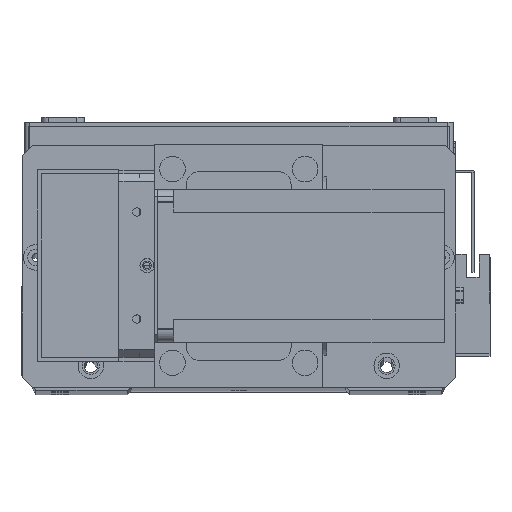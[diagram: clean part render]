
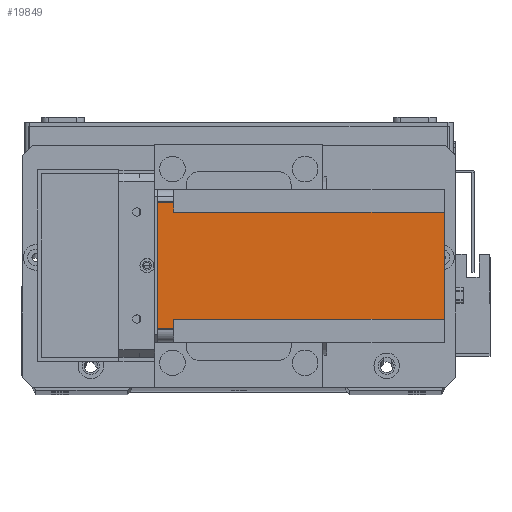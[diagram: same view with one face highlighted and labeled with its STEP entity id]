
A CAD part, top view. The second image highlights one B-rep face of the part: STEP entity #19849.
In plain terms, the highlighted planar face has unit normal (0, 0, 1) as drawn and (-1, 0, 0) by its records, which use the part's own axes.
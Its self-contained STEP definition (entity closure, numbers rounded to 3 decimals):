
#19 = VERTEX_POINT ( 'NONE', #20357 ) ;
#609 = EDGE_LOOP ( 'NONE', ( #22414, #1010, #28360, #31418, #14575, #22029, #1586, #10816 ) ) ;
#793 = LINE ( 'NONE', #22495, #19624 ) ;
#1010 = ORIENTED_EDGE ( 'NONE', *, *, #22180, .T. ) ;
#1586 = ORIENTED_EDGE ( 'NONE', *, *, #24512, .T. ) ;
#2702 = LINE ( 'NONE', #31259, #28083 ) ;
#2725 = CARTESIAN_POINT ( 'NONE',  ( 0., 5., 0. ) ) ;
#4799 = CARTESIAN_POINT ( 'NONE',  ( 0., 55., -6.5 ) ) ;
#5239 = CARTESIAN_POINT ( 'NONE',  ( 0., 0., -112.5 ) ) ;
#5432 = VECTOR ( 'NONE', #23672, 1000. ) ;
#5647 = EDGE_CURVE ( 'NONE', #27781, #5731, #16251, .T. ) ;
#5731 = VERTEX_POINT ( 'NONE', #24345 ) ;
#6171 = VECTOR ( 'NONE', #14285, 1000. ) ;
#7568 = CARTESIAN_POINT ( 'NONE',  ( 0., 55., -112.5 ) ) ;
#7687 = DIRECTION ( 'NONE',  ( -1., 0., 0. ) ) ;
#9986 = EDGE_CURVE ( 'NONE', #22677, #24707, #2702, .T. ) ;
#10065 = EDGE_CURVE ( 'NONE', #13328, #10375, #19249, .T. ) ;
#10300 = LINE ( 'NONE', #13917, #22582 ) ;
#10375 = VERTEX_POINT ( 'NONE', #13080 ) ;
#10816 = ORIENTED_EDGE ( 'NONE', *, *, #11068, .F. ) ;
#10993 = EDGE_CURVE ( 'NONE', #22677, #15619, #16168, .T. ) ;
#11068 = EDGE_CURVE ( 'NONE', #5731, #19, #793, .T. ) ;
#12519 = DIRECTION ( 'NONE',  ( 0., 0., -1. ) ) ;
#13080 = CARTESIAN_POINT ( 'NONE',  ( 0., 51., -6.5 ) ) ;
#13328 = VERTEX_POINT ( 'NONE', #20919 ) ;
#13917 = CARTESIAN_POINT ( 'NONE',  ( 0., 0., -112.5 ) ) ;
#14046 = VECTOR ( 'NONE', #29416, 1000. ) ;
#14285 = DIRECTION ( 'NONE',  ( 0., 0., 1. ) ) ;
#14575 = ORIENTED_EDGE ( 'NONE', *, *, #25887, .F. ) ;
#15486 = VECTOR ( 'NONE', #18665, 1000. ) ;
#15619 = VERTEX_POINT ( 'NONE', #4799 ) ;
#16168 = LINE ( 'NONE', #7568, #21145 ) ;
#16251 = LINE ( 'NONE', #26077, #15486 ) ;
#16410 = DIRECTION ( 'NONE',  ( 0., -1., 0. ) ) ;
#16552 = DIRECTION ( 'NONE',  ( 0., -1., 0. ) ) ;
#18284 = CARTESIAN_POINT ( 'NONE',  ( 0., 55., 0. ) ) ;
#18521 = LINE ( 'NONE', #28499, #5432 ) ;
#18665 = DIRECTION ( 'NONE',  ( 0., 1., 0. ) ) ;
#19249 = LINE ( 'NONE', #31565, #6171 ) ;
#19624 = VECTOR ( 'NONE', #29900, 1000. ) ;
#19849 = ADVANCED_FACE ( 'NONE', ( #30428 ), #19956, .T. ) ;
#19956 = PLANE ( 'NONE',  #30921 ) ;
#20357 = CARTESIAN_POINT ( 'NONE',  ( 0., 9., -112.5 ) ) ;
#20919 = CARTESIAN_POINT ( 'NONE',  ( 0., 51., -112.5 ) ) ;
#21145 = VECTOR ( 'NONE', #12519, 1000. ) ;
#22006 = CARTESIAN_POINT ( 'NONE',  ( 0., 60., -6.5 ) ) ;
#22029 = ORIENTED_EDGE ( 'NONE', *, *, #10065, .F. ) ;
#22180 = EDGE_CURVE ( 'NONE', #27781, #24707, #18521, .T. ) ;
#22414 = ORIENTED_EDGE ( 'NONE', *, *, #5647, .F. ) ;
#22495 = CARTESIAN_POINT ( 'NONE',  ( 0., 9., -112.5 ) ) ;
#22582 = VECTOR ( 'NONE', #16410, 1000. ) ;
#22677 = VERTEX_POINT ( 'NONE', #18284 ) ;
#23672 = DIRECTION ( 'NONE',  ( 0., 0., 1. ) ) ;
#24345 = CARTESIAN_POINT ( 'NONE',  ( 0., 9., -6.5 ) ) ;
#24512 = EDGE_CURVE ( 'NONE', #13328, #19, #10300, .T. ) ;
#24707 = VERTEX_POINT ( 'NONE', #2725 ) ;
#24887 = DIRECTION ( 'NONE',  ( 0., -1., 0. ) ) ;
#25887 = EDGE_CURVE ( 'NONE', #10375, #15619, #27903, .T. ) ;
#25900 = CARTESIAN_POINT ( 'NONE',  ( 0., 5., -6.5 ) ) ;
#26077 = CARTESIAN_POINT ( 'NONE',  ( 0., 0., -6.5 ) ) ;
#27781 = VERTEX_POINT ( 'NONE', #25900 ) ;
#27903 = LINE ( 'NONE', #22006, #14046 ) ;
#28083 = VECTOR ( 'NONE', #16552, 1000. ) ;
#28360 = ORIENTED_EDGE ( 'NONE', *, *, #9986, .F. ) ;
#28499 = CARTESIAN_POINT ( 'NONE',  ( 0., 5., -112.5 ) ) ;
#29416 = DIRECTION ( 'NONE',  ( 0., 1., 0. ) ) ;
#29900 = DIRECTION ( 'NONE',  ( 0., 0., -1. ) ) ;
#30428 = FACE_OUTER_BOUND ( 'NONE', #609, .T. ) ;
#30921 = AXIS2_PLACEMENT_3D ( 'NONE', #5239, #7687, #24887 ) ;
#31259 = CARTESIAN_POINT ( 'NONE',  ( 0., 0., 0. ) ) ;
#31418 = ORIENTED_EDGE ( 'NONE', *, *, #10993, .T. ) ;
#31565 = CARTESIAN_POINT ( 'NONE',  ( 0., 51., -112.5 ) ) ;
